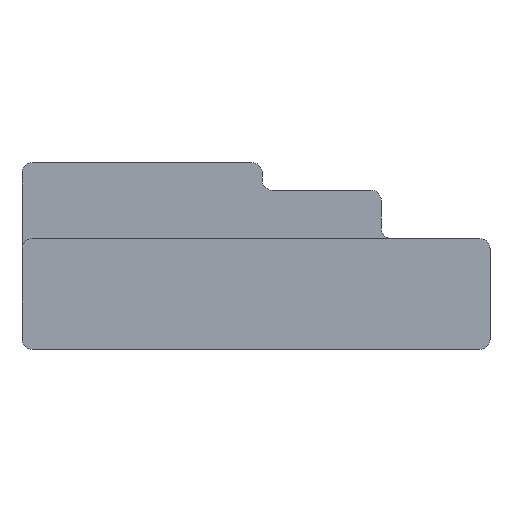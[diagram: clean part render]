
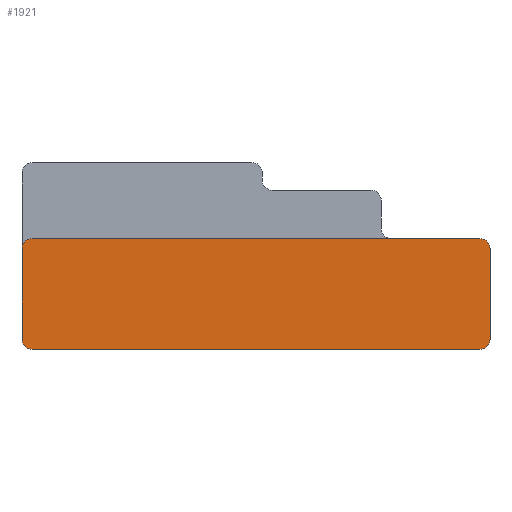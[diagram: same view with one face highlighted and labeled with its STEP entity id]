
A CAD part, front view. The second image highlights one B-rep face of the part: STEP entity #1921.
In plain terms, the highlighted planar face has unit normal (0, -1, 0).
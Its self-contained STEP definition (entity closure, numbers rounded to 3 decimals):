
#27=LINE('',#2726,#257);
#55=LINE('',#2791,#285);
#103=LINE('',#2911,#333);
#113=LINE('',#2932,#343);
#257=VECTOR('',#2195,1000.);
#285=VECTOR('',#2249,1000.);
#333=VECTOR('',#2357,1000.);
#343=VECTOR('',#2379,1000.);
#508=PLANE('',#2067);
#734=ORIENTED_EDGE('',*,*,#1238,.F.);
#735=ORIENTED_EDGE('',*,*,#1162,.T.);
#736=ORIENTED_EDGE('',*,*,#1165,.T.);
#737=ORIENTED_EDGE('',*,*,#1241,.T.);
#738=ORIENTED_EDGE('',*,*,#1133,.T.);
#739=ORIENTED_EDGE('',*,*,#1130,.T.);
#740=ORIENTED_EDGE('',*,*,#1225,.F.);
#741=ORIENTED_EDGE('',*,*,#1240,.T.);
#1130=EDGE_CURVE('',#1410,#1408,#1592,.T.);
#1133=EDGE_CURVE('',#1412,#1410,#27,.T.);
#1162=EDGE_CURVE('',#1434,#1432,#1596,.T.);
#1165=EDGE_CURVE('',#1432,#1436,#55,.T.);
#1225=EDGE_CURVE('',#1478,#1408,#103,.T.);
#1238=EDGE_CURVE('',#1434,#1483,#113,.T.);
#1240=EDGE_CURVE('',#1478,#1483,#1613,.T.);
#1241=EDGE_CURVE('',#1436,#1412,#1614,.T.);
#1408=VERTEX_POINT('',#2718);
#1410=VERTEX_POINT('',#2721);
#1412=VERTEX_POINT('',#2727);
#1432=VERTEX_POINT('',#2783);
#1434=VERTEX_POINT('',#2786);
#1436=VERTEX_POINT('',#2792);
#1478=VERTEX_POINT('',#2912);
#1483=VERTEX_POINT('',#2933);
#1592=CIRCLE('',#2013,0.5);
#1596=CIRCLE('',#2026,0.5);
#1613=CIRCLE('',#2066,0.5);
#1614=CIRCLE('',#2068,0.5);
#1678=EDGE_LOOP('',(#734,#735,#736,#737,#738,#739,#740,#741));
#1789=FACE_BOUND('',#1678,.T.);
#1921=ADVANCED_FACE('',(#1789),#508,.T.);
#2013=AXIS2_PLACEMENT_3D('',#2720,#2188,#2189);
#2026=AXIS2_PLACEMENT_3D('',#2785,#2242,#2243);
#2066=AXIS2_PLACEMENT_3D('',#2936,#2383,#2384);
#2067=AXIS2_PLACEMENT_3D('',#2937,#2385,#2386);
#2068=AXIS2_PLACEMENT_3D('',#2938,#2387,#2388);
#2188=DIRECTION('',(0.,-1.,0.));
#2189=DIRECTION('',(1.,0.,0.));
#2195=DIRECTION('',(0.,0.,1.));
#2242=DIRECTION('',(0.,-1.,0.));
#2243=DIRECTION('',(-1.,0.,0.));
#2249=DIRECTION('',(1.,0.,0.));
#2357=DIRECTION('',(1.,0.,0.));
#2379=DIRECTION('',(0.,0.,1.));
#2383=DIRECTION('',(0.,-1.,0.));
#2384=DIRECTION('',(0.,0.,1.));
#2385=DIRECTION('',(0.,-1.,0.));
#2386=DIRECTION('',(1.,0.,0.));
#2387=DIRECTION('',(0.,-1.,0.));
#2388=DIRECTION('',(0.,0.,-1.));
#2718=CARTESIAN_POINT('',(10.9,-11.6,5.4));
#2720=CARTESIAN_POINT('',(10.9,-11.6,4.9));
#2721=CARTESIAN_POINT('',(11.4,-11.6,4.9));
#2726=CARTESIAN_POINT('',(11.4,-11.6,0.5));
#2727=CARTESIAN_POINT('',(11.4,-11.6,0.5));
#2783=CARTESIAN_POINT('',(-10.9,-11.6,0.));
#2785=CARTESIAN_POINT('',(-10.9,-11.6,0.5));
#2786=CARTESIAN_POINT('',(-11.4,-11.6,0.5));
#2791=CARTESIAN_POINT('',(-10.9,-11.6,0.));
#2792=CARTESIAN_POINT('',(10.9,-11.6,0.));
#2911=CARTESIAN_POINT('',(-10.9,-11.6,5.4));
#2912=CARTESIAN_POINT('',(-10.9,-11.6,5.4));
#2932=CARTESIAN_POINT('',(-11.4,-11.6,0.5));
#2933=CARTESIAN_POINT('',(-11.4,-11.6,4.9));
#2936=CARTESIAN_POINT('',(-10.9,-11.6,4.9));
#2937=CARTESIAN_POINT('',(-11.4,-11.6,0.));
#2938=CARTESIAN_POINT('',(10.9,-11.6,0.5));
